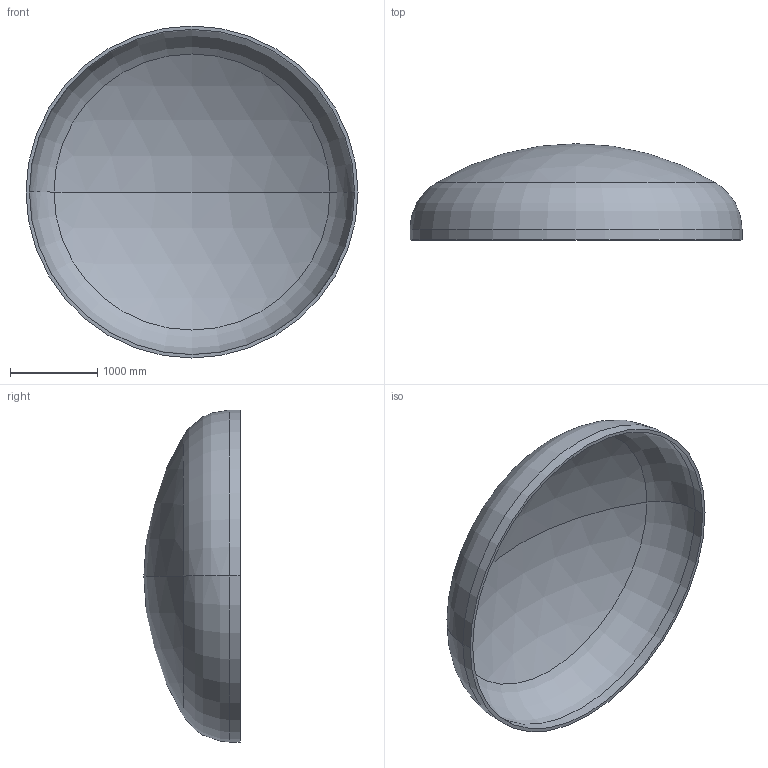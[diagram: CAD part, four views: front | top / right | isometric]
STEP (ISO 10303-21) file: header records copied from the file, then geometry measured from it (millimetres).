
FILE_DESCRIPTION (( 'STEP AP203' ), '1' );
FILE_NAME ('DIN 28013 Korbbogenform_-_Boden DIN 28013 - 3800 x 120 - I - s=39.step', '2016-07-01T21:21:58', ( '' ), ( '' ), 'SwSTEP 2.0', 'SolidWorks 2013', '' );
FILE_SCHEMA (( 'CONFIG_CONTROL_DESIGN' ));
Length unit declared in the file: millimetre
Products named in the file (1): DIN 28013 Korbbogenform_-_Boden DIN 28013 - 3800 x 120 - I - s=39
Bounding box: 3800 x 1101.66 x 3800 mm (x, y, z)
Volume: 659583717.9 mm3; surface area: 34288784.9 mm2
Topology: 1 solids, 1 shells, 13 faces, 24 edges, 14 vertices
Faces by surface type: torus 4, cylinder 4, sphere 4, plane 1
Entity records: 407 total; most frequent: DIRECTION 72, CARTESIAN_POINT 52, ORIENTED_EDGE 48, AXIS2_PLACEMENT_3D 34, EDGE_CURVE 24, CIRCLE 20, EDGE_LOOP 14, VERTEX_POINT 14
